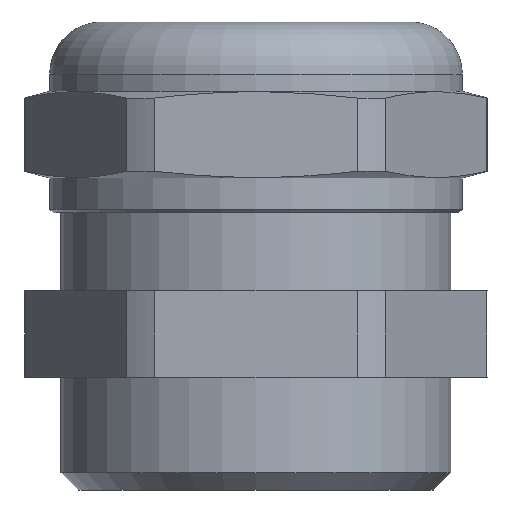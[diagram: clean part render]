
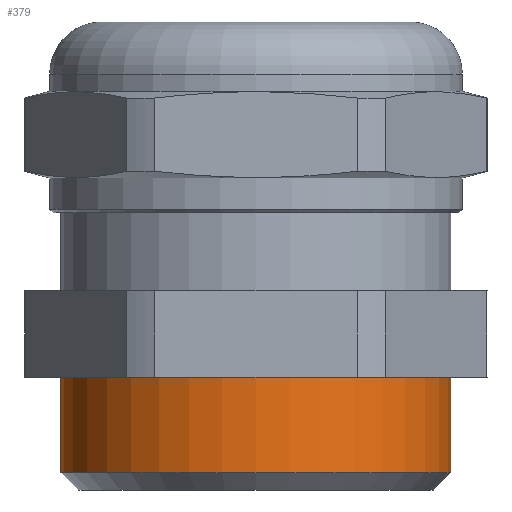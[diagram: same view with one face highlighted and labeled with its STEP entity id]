
A CAD part, left-side view. The second image highlights one B-rep face of the part: STEP entity #379.
In plain terms, the highlighted cylindrical face has radius 11.25 mm (diameter 22.5 mm), a partial arc.
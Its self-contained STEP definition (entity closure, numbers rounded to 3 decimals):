
#368 = EDGE_CURVE ( 'NONE', #1660, #708, #1301, .T. ) ;
#369 = ORIENTED_EDGE ( 'NONE', *, *, #368, .F. ) ;
#371 = ORIENTED_EDGE ( 'NONE', *, *, #378, .T. ) ;
#372 = ORIENTED_EDGE ( 'NONE', *, *, #1663, .T. ) ;
#374 = ORIENTED_EDGE ( 'NONE', *, *, #1763, .F. ) ;
#378 = EDGE_CURVE ( 'NONE', #1711, #1661, #1350, .T. ) ;
#379 = ADVANCED_FACE ( 'NONE', ( #1345 ), #1344, .T. ) ;
#380 = EDGE_LOOP ( 'NONE', ( #374, #371, #372, #369 ) ) ;
#708 = VERTEX_POINT ( 'NONE', #2616 ) ;
#1301 = CIRCLE ( 'NONE', #1359, 11.25 ) ;
#1340 = DIRECTION ( 'NONE',  ( 0., 1., 0. ) ) ;
#1341 = DIRECTION ( 'NONE',  ( 0., 0., -1. ) ) ;
#1342 = CARTESIAN_POINT ( 'NONE',  ( 0., 0., 0. ) ) ;
#1343 = AXIS2_PLACEMENT_3D ( 'NONE', #1342, #1341, #1340 ) ;
#1344 = CYLINDRICAL_SURFACE ( 'NONE', #1343, 11.25 ) ;
#1345 = FACE_OUTER_BOUND ( 'NONE', #380, .T. ) ;
#1346 = DIRECTION ( 'NONE',  ( 0., 1., 0. ) ) ;
#1347 = DIRECTION ( 'NONE',  ( 0., 0., -1. ) ) ;
#1348 = CARTESIAN_POINT ( 'NONE',  ( 0., 0., 6.5 ) ) ;
#1349 = AXIS2_PLACEMENT_3D ( 'NONE', #1348, #1347, #1346 ) ;
#1350 = CIRCLE ( 'NONE', #1349, 11.25 ) ;
#1356 = DIRECTION ( 'NONE',  ( 0., 1., 0. ) ) ;
#1357 = DIRECTION ( 'NONE',  ( 0., 0., -1. ) ) ;
#1358 = CARTESIAN_POINT ( 'NONE',  ( 0., 0., 1. ) ) ;
#1359 = AXIS2_PLACEMENT_3D ( 'NONE', #1358, #1357, #1356 ) ;
#1440 = CARTESIAN_POINT ( 'NONE',  ( 0., -11.25, 6.5 ) ) ;
#1534 = DIRECTION ( 'NONE',  ( 0., 0., -1. ) ) ;
#1535 = VECTOR ( 'NONE', #1534, 1000. ) ;
#1536 = CARTESIAN_POINT ( 'NONE',  ( 0., -11.25, 0. ) ) ;
#1537 = LINE ( 'NONE', #1536, #1535 ) ;
#1660 = VERTEX_POINT ( 'NONE', #2780 ) ;
#1661 = VERTEX_POINT ( 'NONE', #2779 ) ;
#1663 = EDGE_CURVE ( 'NONE', #1661, #708, #2778, .T. ) ;
#1711 = VERTEX_POINT ( 'NONE', #1440 ) ;
#1763 = EDGE_CURVE ( 'NONE', #1711, #1660, #1537, .T. ) ;
#2616 = CARTESIAN_POINT ( 'NONE',  ( 0., 11.25, 1. ) ) ;
#2775 = DIRECTION ( 'NONE',  ( 0., 0., -1. ) ) ;
#2776 = VECTOR ( 'NONE', #2775, 1000. ) ;
#2777 = CARTESIAN_POINT ( 'NONE',  ( 0., 11.25, 0. ) ) ;
#2778 = LINE ( 'NONE', #2777, #2776 ) ;
#2779 = CARTESIAN_POINT ( 'NONE',  ( 0., 11.25, 6.5 ) ) ;
#2780 = CARTESIAN_POINT ( 'NONE',  ( 0., -11.25, 1. ) ) ;
